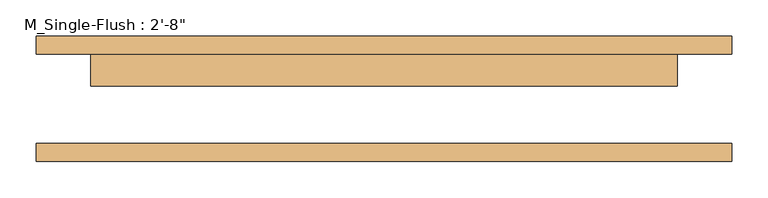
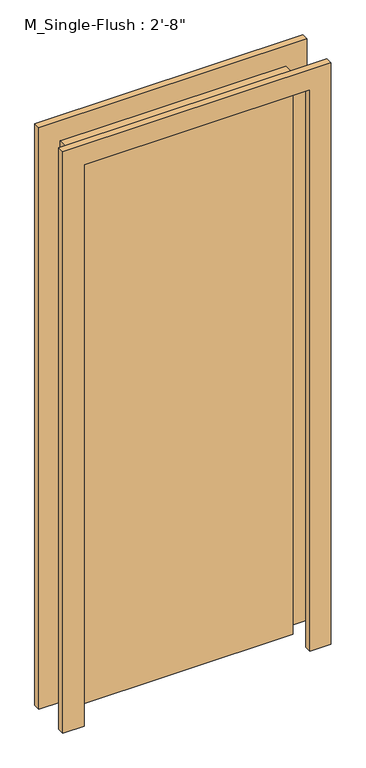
"""IFC4 building model written with IfcOpenShell, lengths in millimetres: door geometry."""

from ifc_helpers import new_model, si_unit, frame, origin, origin_with_axes, place, context, project, spatial, polyline, outline, extrude, source, transform, mapped, element, save


def door_e975d77b(model_context):
    return source(origin(), model_context, "Body", "SweptSolid", [
        extrude(outline(polyline([(2209.8, -482.6), (0.0, -482.6), (0.0, -406.4), (2133.6, -406.4), (2133.6, 406.4), (0.0, 406.4), (0.0, 482.6), (2209.8, 482.6), (2209.8, -482.6)])), frame((0.0, 61.9125, 0.0), z_axis=(0.0, 1.0, 0.0), x_axis=(0.0, 0.0, 1.0)), (0.0, 0.0, 1.0), 25.4),
        extrude(outline(polyline([(2209.8, 482.6), (2209.8, -482.6), (0.0, -482.6), (0.0, -406.4), (2133.6, -406.4), (2133.6, 406.4), (0.0, 406.4), (0.0, 482.6), (2209.8, 482.6)])), frame((0.0, -87.3125, 0.0), z_axis=(0.0, 1.0, 0.0), x_axis=(0.0, 0.0, 1.0)), (0.0, 0.0, 1.0), 25.4),
        extrude(outline(polyline([(406.4, 17.4625), (-406.4, 17.4625), (-406.4, 61.9125), (406.4, 61.9125), (406.4, 17.4625)])), origin_with_axes(), (0.0, 0.0, 1.0), 2133.6),
    ])


if __name__ == "__main__":
    model = new_model("IFC4")
    model_context = context("Model", 3, world=origin())
    ifc_project = project(units=[si_unit("LENGTHUNIT", "METRE", prefix="MILLI")], contexts=[model_context])
    site = spatial("IfcSite", under=ifc_project)
    building = spatial("IfcBuilding", under=site)
    placement = place(None, origin())
    door_shape = door_e975d77b(model_context)
    element("IfcDoor", 1, ObjectType="M_Single-Flush : 2'-8\"", at=placement, inside=building, context=model_context, shape_type="MappedRepresentation", body=[
        mapped(door_shape, transform((0.0, 0.0, 0.0), x_axis=(1.0, 0.0, 0.0), y_axis=(0.0, 1.0, 0.0), z_axis=(0.0, 0.0, 1.0))),
    ])
    save(model, "model.ifc")
